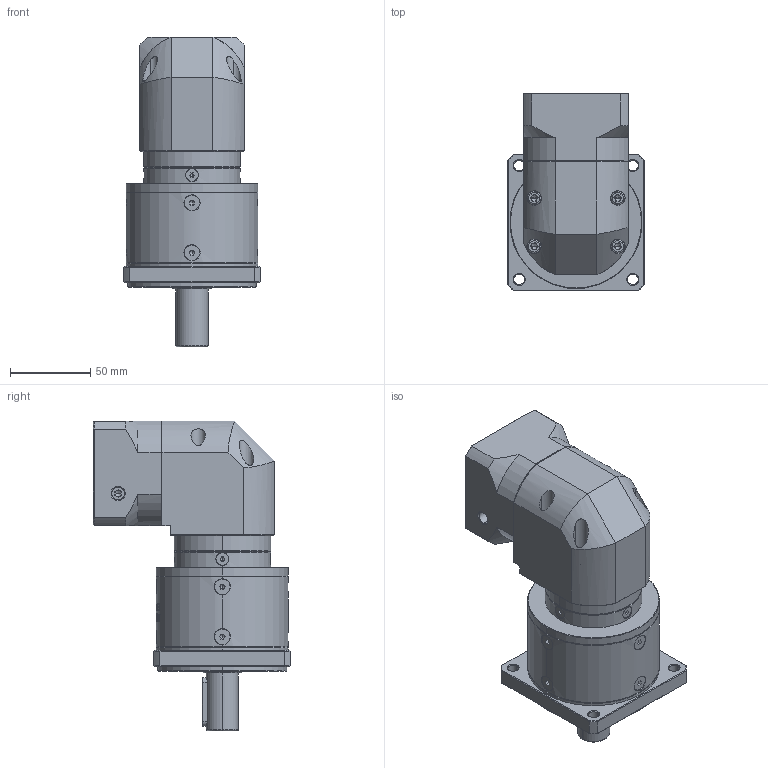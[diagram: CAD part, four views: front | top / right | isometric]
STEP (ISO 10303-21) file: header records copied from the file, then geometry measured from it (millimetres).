
FILE_DESCRIPTION (( 'STEP AP214' ), '1' );
FILE_NAME ('ZFR080-D20-L2-P2-14-60-75-M5.step', '2023-08-25T07:18:25', ( '' ), ( '' ), 'SwSTEP 2.0', 'SolidWorks 2016', '' );
FILE_SCHEMA (( 'AUTOMOTIVE_DESIGN' ));
Length unit declared in the file: millimetre
Products named in the file (1): ZFR080-D20-L2-P2-14-60-75-M5
Bounding box: 85 x 122.7 x 192.5 mm (x, y, z)
Volume: 799799.1 mm3; surface area: 103474.2 mm2
Topology: 17 solids, 18 shells, 2449 faces, 6413 edges, 4079 vertices
Faces by surface type: plane 1176, cylinder 450, bspline 394, cone 381, torus 48
Entity records: 127190 total; most frequent: CARTESIAN_POINT 44760, ORIENTED_EDGE 12734, DIRECTION 9887, EDGE_CURVE 6367, VERTEX_POINT 4079, LINE 3375, VECTOR 3375, AXIS2_PLACEMENT_3D 3256
